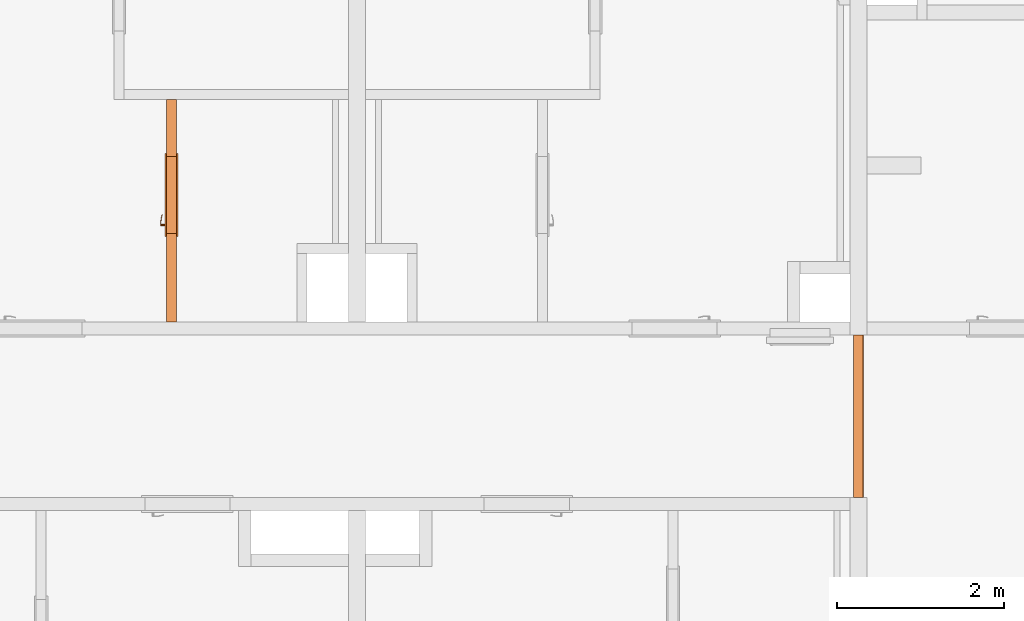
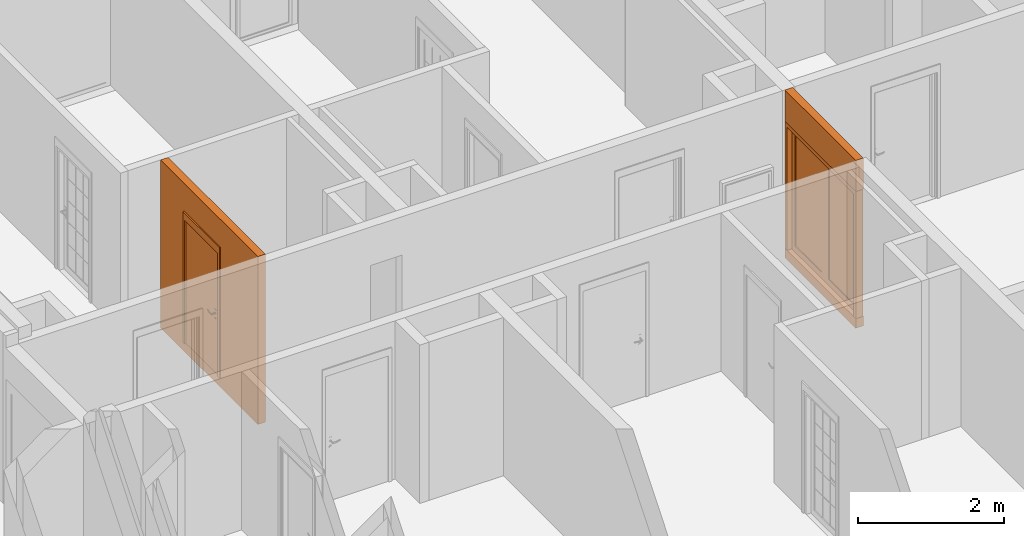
# One storey, part 16 of 66: 4 proxies, 2 openings.
"""IFC2X3 building model written with IfcOpenShell, lengths in millimetres."""

import ifcopenshell
import ifcopenshell.guid

model = None  # the IFC model being written
_history = None  # IfcOwnerHistory: only IFC2X3 demands one
_inside = {}  # id of a spatial element -> (the spatial element, [elements in it])
_under = {}  # id of a project, library or spatial element -> (it, [spatial elements below it])
_declared = {}  # id of a project -> (the project, [libraries it declares])
_typed = {}  # id of a type object -> (the type object, [elements of that type])
_made_of = {}  # id of a material, layer set ... -> (it, [elements and type objects made of it])


def new_model(schema):
    """Start an empty IFC model of exactly this schema.

    Asked for "IFC4X3", IfcOpenShell would pick the latest addendum, in which some entities
    have other attributes; the version numbers below select the first issue.
    IFC2X3 requires an IfcOwnerHistory on every rooted entity: one is made here for all.
    """
    global model, _history
    if schema == "IFC4X3":
        model = ifcopenshell.file(schema_version=(4, 3, 0, 0))
    else:
        model = ifcopenshell.file(schema=schema)
    _inside.clear()
    _under.clear()
    _declared.clear()
    _typed.clear()
    _made_of.clear()
    _history = None
    if model.schema == "IFC2X3":
        org = make("IfcOrganization", Name="unknown")
        user = make(
            "IfcPersonAndOrganization",
            ThePerson=make("IfcPerson", FamilyName="unknown"),
            TheOrganization=org,
        )
        app = make(
            "IfcApplication",
            ApplicationDeveloper=org,
            Version="unknown",
            ApplicationFullName="unknown",
            ApplicationIdentifier="unknown",
        )
        _history = make(
            "IfcOwnerHistory",
            OwningUser=user,
            OwningApplication=app,
            ChangeAction="ADDED",
            CreationDate=0,
        )
    return model


def make(cls, **values):
    """One entity of the class cls with the attributes given. An attribute that is None is left unset."""
    return model.create_entity(
        cls, **{name: value for name, value in values.items() if value is not None}
    )


def entity(cls, *values):
    """Any entity or typed value of the class cls, its attributes in the order of the schema. None: left unset."""
    e = model.create_entity(cls)
    for i, value in enumerate(values):
        if value is not None:
            e[i] = value
    return e


def rooted(cls, **values):
    """An entity with a GlobalId (a new one), such as an element, a storey or a relation."""
    return make(cls, GlobalId=ifcopenshell.guid.new(), OwnerHistory=_history, **values)


def si_unit(unit_type, name, prefix=None):
    """IfcSIUnit, for example si_unit("LENGTHUNIT", "METRE", prefix="MILLI")."""
    return make("IfcSIUnit", UnitType=unit_type, Prefix=prefix, Name=name)


def converted_unit(unit_type, name, factor, base, dimensions=None, offset=None):
    """IfcConversionBasedUnit, such as the inch: factor (a typed value) times the base unit."""
    return make(
        "IfcConversionBasedUnit"
        if offset is None
        else "IfcConversionBasedUnitWithOffset",
        ConversionOffset=offset,
        Dimensions=None
        if dimensions is None
        else entity("IfcDimensionalExponents", *dimensions),
        UnitType=unit_type,
        Name=name,
        ConversionFactor=make(
            "IfcMeasureWithUnit", ValueComponent=factor, UnitComponent=base
        ),
    )


def derived_unit(unit_type, elements):
    """IfcDerivedUnit: a product of units, each with its exponent."""
    return make(
        "IfcDerivedUnit",
        Elements=[
            make("IfcDerivedUnitElement", Unit=unit, Exponent=power)
            for unit, power in elements
        ],
        UnitType=unit_type,
    )


def money_unit(currency):
    """IfcMonetaryUnit."""
    return make("IfcMonetaryUnit", Currency=currency)


def assignment(units):
    """IfcUnitAssignment: the units of a project."""
    return None if units is None else make("IfcUnitAssignment", Units=units)


def point(xyz):
    """IfcCartesianPoint."""
    return None if xyz is None else make("IfcCartesianPoint", Coordinates=xyz)


def direction(xyz):
    """IfcDirection."""
    return None if xyz is None else make("IfcDirection", DirectionRatios=xyz)


def frame(location, z_axis=None, x_axis=None):
    """IfcAxis2Placement3D, a coordinate frame: its origin and axes. An axis left out is left unset."""
    return make(
        "IfcAxis2Placement3D",
        Location=point(location),
        Axis=direction(z_axis),
        RefDirection=direction(x_axis),
    )


def frame_2d(location, x_axis=None):
    """IfcAxis2Placement2D, a coordinate frame in the plane: its origin and x axis."""
    return make(
        "IfcAxis2Placement2D", Location=point(location), RefDirection=direction(x_axis)
    )


def origin_with_axes():
    """The frame at (0, 0, 0) with the z axis (0, 0, 1) and the x axis (1, 0, 0) written out."""
    return frame((0.0, 0.0, 0.0), z_axis=(0.0, 0.0, 1.0), x_axis=(1.0, 0.0, 0.0))


def origin_2d_with_axis():
    """The frame at (0, 0) in the plane with the x axis (1, 0) written out."""
    return frame_2d((0.0, 0.0), x_axis=(1.0, 0.0))


def place(relative_to, where):
    """IfcLocalPlacement: puts the frame where relative to a parent placement (None: the world)."""
    return make(
        "IfcLocalPlacement", PlacementRelTo=relative_to, RelativePlacement=where
    )


def context(
    kind, dimensions, precision=None, world=None, true_north=None, identifier=None
):
    """IfcGeometricRepresentationContext, for example the 3D "Model" context."""
    return make(
        "IfcGeometricRepresentationContext",
        ContextIdentifier=identifier,
        ContextType=kind,
        CoordinateSpaceDimension=dimensions,
        Precision=precision,
        WorldCoordinateSystem=world,
        TrueNorth=true_north,
    )


def subcontext(parent, identifier, kind, view, scale=None):
    """IfcGeometricRepresentationSubContext, for example "Body" below "Model"."""
    return make(
        "IfcGeometricRepresentationSubContext",
        ContextIdentifier=identifier,
        ContextType=kind,
        ParentContext=parent,
        TargetScale=scale,
        TargetView=view,
    )


def project(units=None, contexts=None):
    """IfcProject with its units and contexts."""
    return rooted(
        "IfcProject",
        Name="project",
        RepresentationContexts=contexts,
        UnitsInContext=assignment(units),
    )


def spatial(cls, under=None, at=None, **own):
    """A site, building, storey or space (cls), placed at a placement, below another one or the project."""
    s = rooted(cls, ObjectPlacement=at, **own)
    if under is not None:
        _under.setdefault(under.id(), (under, []))[1].append(s)
    return s


def profile(cls, at=None, kind="AREA", **sizes):
    """A parametric profile (cls). Its sizes go by their IFC names, for example OverallWidth=200.0."""
    return make(cls, ProfileType=kind, Position=at, **sizes)


def rectangle(**sizes):
    """IfcRectangleProfileDef."""
    return profile("IfcRectangleProfileDef", **sizes)


def extrude(swept, where, along, depth):
    """IfcExtrudedAreaSolid: the profile swept, set in the frame where, extruded along a direction by depth."""
    return make(
        "IfcExtrudedAreaSolid",
        SweptArea=swept,
        Position=where,
        ExtrudedDirection=direction(along),
        Depth=depth,
    )


def faces_of(points, faces, orient=None, outer=None):
    """IfcFace entities. A face is a list of loops; a loop is a list of indices into points, from 0.

    orient and outer hold one flag for each loop. By default every Orientation is true, the
    first loop of a face is its IfcFaceOuterBound and the others are IfcFaceBound.
    """
    made = []
    for i, loops in enumerate(faces):
        bounds = []
        for j, loop in enumerate(loops):
            is_outer = j == 0 if outer is None else outer[i][j]
            bounds.append(
                make(
                    "IfcFaceOuterBound" if is_outer else "IfcFaceBound",
                    Bound=make("IfcPolyLoop", Polygon=[points[k] for k in loop]),
                    Orientation=True if orient is None else orient[i][j],
                )
            )
        made.append(make("IfcFace", Bounds=bounds))
    return made


def open_shell(faces, orient=None, outer=None):
    """The faces of one IfcOpenShell. surface_model builds it on its shared points."""
    return ("IfcOpenShell", faces, orient, outer)


def faceted_brep(points, faces, orient=None, outer=None, voids=None):
    """IfcFacetedBrep: a solid bounded by flat faces; with voids (closed shells), ...WithVoids."""
    shared = [point(p) for p in points]
    hull = make("IfcClosedShell", CfsFaces=faces_of(shared, faces, orient, outer))
    if voids is None:
        return make("IfcFacetedBrep", Outer=hull)
    return make(
        "IfcFacetedBrepWithVoids",
        Outer=hull,
        Voids=[
            make(cls, CfsFaces=faces_of(shared, fs, o, b)) for cls, fs, o, b in voids
        ],
    )


def surface_model(cls, points, shells):
    """IfcFaceBasedSurfaceModel or IfcShellBasedSurfaceModel (cls): surfaces that need not close."""
    shared = [point(p) for p in points]
    made = [make(c, CfsFaces=faces_of(shared, fs, o, b)) for c, fs, o, b in shells]
    if cls == "IfcFaceBasedSurfaceModel":
        return make(cls, FbsmFaces=made)
    return make(cls, SbsmBoundary=made)


def shape(context_of_items, identifier, shape_type, items):
    """IfcShapeRepresentation: the items that make up one representation, for example the "Body"."""
    return make(
        "IfcShapeRepresentation",
        ContextOfItems=context_of_items,
        RepresentationIdentifier=identifier,
        RepresentationType=shape_type,
        Items=items,
    )


def source(mapping_origin, context_of_items, identifier, shape_type, items):
    """IfcRepresentationMap: a shape defined once, which mapped items show again and again."""
    return make(
        "IfcRepresentationMap",
        MappingOrigin=mapping_origin,
        MappedRepresentation=shape(context_of_items, identifier, shape_type, items),
    )


def transform(
    local_origin,
    x_axis=None,
    y_axis=None,
    z_axis=None,
    scale=None,
    scale2=None,
    scale3=None,
    uniform=True,
):
    """IfcCartesianTransformationOperator3D, or its non-uniform kind. x_axis, y_axis, z_axis: its Axis1, 2, 3."""
    if uniform:
        return make(
            "IfcCartesianTransformationOperator3D",
            Axis1=direction(x_axis),
            Axis2=direction(y_axis),
            LocalOrigin=point(local_origin),
            Scale=scale,
            Axis3=direction(z_axis),
        )
    return make(
        "IfcCartesianTransformationOperator3DnonUniform",
        Axis1=direction(x_axis),
        Axis2=direction(y_axis),
        LocalOrigin=point(local_origin),
        Scale=scale,
        Axis3=direction(z_axis),
        Scale2=scale2,
        Scale3=scale3,
    )


def mapped(mapping_source, mapping_target):
    """IfcMappedItem: shows the shape of a source again, moved by a transform."""
    return make(
        "IfcMappedItem", MappingSource=mapping_source, MappingTarget=mapping_target
    )


def material(Name=None, Category=None):
    """IfcMaterial."""
    return make("IfcMaterial", Name=Name, Category=Category)


def made_of(thing, what):
    """Note that an element or type object is made of a material, layer set ...; save() writes the relation."""
    if what is not None:
        _made_of.setdefault(what.id(), (what, []))[1].append(thing)
    return thing


def type_object(cls, material=None, **own):
    """A type object (cls), such as IfcWallType, which elements share."""
    return made_of(rooted(cls, **own), material)


def element(
    cls,
    number,
    at=None,
    inside=None,
    cuts=None,
    type_object=None,
    material=None,
    context=None,
    identifier="Body",
    shape_type=None,
    held_by="IfcProductDefinitionShape",
    body=None,
    shapes=None,
    **own,
):
    """One element of the class cls, such as IfcWall. Its Tag is "e" and its number.

    at: its placement. inside: the storey or other place that contains it. cuts: it is an
    opening in that element (IfcRelVoidsElement). A single representation is given by context,
    identifier, shape_type and body (its items); several are given by shapes. held_by: the class
    of the entity that holds the representations. save() writes the other relations.
    """
    e = rooted(cls, Tag="e%d" % number, ObjectPlacement=at, **own)
    if body is not None:
        shapes = [shape(context, identifier, shape_type, body)]
    if shapes is not None:
        e.Representation = make(held_by, Representations=shapes)
    if inside is not None:
        _inside.setdefault(inside.id(), (inside, []))[1].append(e)
    if cuts is not None:
        rooted(
            "IfcRelVoidsElement", RelatingBuildingElement=cuts, RelatedOpeningElement=e
        )
    if type_object is not None:
        _typed.setdefault(type_object.id(), (type_object, []))[1].append(e)
    return made_of(e, material)


def fill(opening, filler):
    """IfcRelFillsElement: the door or window that sits in an opening."""
    return rooted(
        "IfcRelFillsElement",
        RelatingOpeningElement=opening,
        RelatedBuildingElement=filler,
    )


def aggregate(whole, parts):
    """IfcRelAggregates: a whole, such as a stair, and the parts it consists of."""
    return rooted("IfcRelAggregates", RelatingObject=whole, RelatedObjects=parts)


def save(model, path):
    """Write the relations noted so far, then the file.

    IfcRelAggregates (storeys below a building ...), IfcRelContainedInSpatialStructure (elements
    in a storey), IfcRelDefinesByType, IfcRelAssociatesMaterial and IfcRelDeclares: one each for
    every whole, place, type object, material and project.
    """
    for whole, parts in _under.values():
        aggregate(whole, parts)
    for where, things in _inside.values():
        rooted(
            "IfcRelContainedInSpatialStructure",
            RelatedElements=things,
            RelatingStructure=where,
        )
    for kind, things in _typed.values():
        rooted("IfcRelDefinesByType", RelatedObjects=things, RelatingType=kind)
    for what, things in _made_of.values():
        rooted("IfcRelAssociatesMaterial", RelatedObjects=things, RelatingMaterial=what)
    for by, libraries in _declared.values():
        rooted("IfcRelDeclares", RelatingContext=by, RelatedDefinitions=libraries)
    model.write(path)


model = new_model("IFC2X3")

# Units and contexts
model_context = context("Model", 3, precision=0.01, world=origin_with_axes(), true_north=direction((0.34421633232, 0.938890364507)))
body_context = subcontext(model_context, "Body", "Model", "MODEL_VIEW")
ifc_project = project(units=[si_unit("LENGTHUNIT", "METRE", prefix="MILLI"), si_unit("AREAUNIT", "SQUARE_METRE"), si_unit("VOLUMEUNIT", "CUBIC_METRE"), converted_unit("PLANEANGLEUNIT", "DEGREE", entity("IfcPlaneAngleMeasure", 0.0174532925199), si_unit("PLANEANGLEUNIT", "RADIAN"), dimensions=[0, 0, 0, 0, 0, 0, 0]), si_unit("SOLIDANGLEUNIT", "STERADIAN"), money_unit("USD"), converted_unit("TIMEUNIT", "Year", entity("IfcTimeMeasure", 31556926.0), si_unit("TIMEUNIT", "SECOND"), dimensions=[0, 0, 1, 0, 0, 0, 0]), si_unit("MASSUNIT", "GRAM", prefix="KILO"), si_unit("THERMODYNAMICTEMPERATUREUNIT", "DEGREE_CELSIUS"), si_unit("LUMINOUSINTENSITYUNIT", "LUMEN"), si_unit("ENERGYUNIT", "JOULE", prefix="MEGA"), derived_unit("THERMALCONDUCTANCEUNIT", [(si_unit("POWERUNIT", "WATT"), 1), (si_unit("LENGTHUNIT", "METRE"), -1), (si_unit("THERMODYNAMICTEMPERATUREUNIT", "KELVIN"), -1)]), derived_unit("SPECIFICHEATCAPACITYUNIT", [(si_unit("ENERGYUNIT", "JOULE"), 1), (si_unit("MASSUNIT", "GRAM", prefix="KILO"), -1), (si_unit("THERMODYNAMICTEMPERATUREUNIT", "KELVIN"), -1)]), derived_unit("MASSDENSITYUNIT", [(si_unit("MASSUNIT", "GRAM", prefix="KILO"), 1), (si_unit("VOLUMEUNIT", "CUBIC_METRE"), -1)])], contexts=[model_context])

# Site, building, storey
site_placement = place(None, origin_with_axes())
site = spatial("IfcSite", under=ifc_project, at=site_placement, Name="USTRONIE MORSKIE", CompositionType="ELEMENT")
building_placement = place(site_placement, origin_with_axes())
building = spatial("IfcBuilding", under=site, at=building_placement, Name="Budynek", CompositionType="ELEMENT")
storey_placement = place(building_placement, frame((0.0, 0.0, 10000.0), z_axis=(0.0, 0.0, 1.0), x_axis=(1.0, 0.0, 0.0)))
storey = spatial("IfcBuildingStorey", under=building, at=storey_placement, Name="PIĘTRO 3", CompositionType="ELEMENT", Elevation=10000.0)

# Proxies, opening
ifc_material = material(Name="Bloczki silikatowe")
building_element_proxy_type_1 = type_object("IfcBuildingElementProxyType", Name="Bloczki silikatowe 120", PredefinedType="NOTDEFINED")
proxy_1_placement = place(storey_placement, frame((379317.920919, 734751.199036, -160.0), z_axis=(0.0, 0.0, 1.0), x_axis=(0.0, 1.0, 0.0)))
proxy_1 = element("IfcBuildingElementProxy", 1, at=proxy_1_placement, inside=storey, type_object=building_element_proxy_type_1, material=ifc_material, Name="SW-04", context=body_context, shape_type="Brep", body=[
    faceted_brep([(80.0038033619, -60.0, 0.0), (2020.0, -60.0, 0.0), (2020.0, -60.0, 2800.0), (80.0038033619, -60.0, 2800.0), (80.0037661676, 60.0, 0.0), (2020.0, 60.0, 0.0), (2020.0, 60.0, 2800.0), (80.0037661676, 60.0, 2800.0)], [[[0, 1, 2, 3]], [[4, 5, 1, 0]], [[5, 6, 2, 1]], [[3, 2, 6, 7]], [[4, 0, 3, 7]], [[7, 6, 5, 4]]]),
])
opening_1_placement = place(proxy_1_placement, frame((1050.00190168, 0.0, 160.0), z_axis=(0.0, 0.0, 1.0), x_axis=(1.0, 0.0, 0.0)))
opening_1 = element("IfcOpeningElement", 2, at=opening_1_placement, cuts=proxy_1, Name="Dw.6s", context=body_context, shape_type="SweptSolid", body=[
    extrude(rectangle(XDim=1940.0, YDim=2120.0, at=origin_2d_with_axis()), frame((0.0, -120.0, 1060.0), z_axis=(0.0, -1.0, 0.0), x_axis=(1.0, 0.0, 0.0)), (0.0, 0.0, -1.0), 360.0),
])
building_element_proxy_type_2 = type_object("IfcBuildingElementProxyType", Name="Drzwi podwójne 23", PredefinedType="NOTDEFINED")
shared_shape_1 = source(origin_with_axes(), body_context, "Body", "SurfaceModel", [
    faceted_brep([(910.0, -40.0, 0.0), (910.0, -115.0, 0.0), (910.0, -115.0, 2050.0), (910.0, -40.0, 2050.0), (922.0, -40.0, 0.0), (922.0, 0.0, 0.0), (970.0, 0.0, 0.0), (970.0, -115.0, 0.0), (970.0, -115.0, 2050.0), (922.0, -40.0, 2050.0), (970.0, 0.0, 2050.0), (922.0, 0.0, 2050.0)], [[[0, 1, 2, 3]], [[4, 5, 6, 7, 1, 0]], [[1, 7, 8, 2]], [[9, 3, 2, 8, 10, 11]], [[9, 4, 0, 3]], [[11, 5, 4, 9]], [[11, 10, 6, 5]], [[6, 10, 8, 7]]]),
    faceted_brep([(-922.0, -40.0, 2050.0), (-922.0, 0.0, 2050.0), (-970.0, 0.0, 2050.0), (-970.0, -115.0, 2050.0), (-910.0, -115.0, 2050.0), (-910.0, -40.0, 2050.0), (-922.0, -40.0, 0.0), (-922.0, 0.0, 0.0), (-970.0, 0.0, 0.0), (-970.0, -115.0, 0.0), (-910.0, -115.0, 0.0), (-910.0, -40.0, 0.0)], [[[0, 1, 2, 3, 4, 5]], [[0, 6, 7, 1]], [[7, 8, 2, 1]], [[2, 8, 9, 3]], [[3, 9, 10, 4]], [[5, 4, 10, 11]], [[5, 11, 6, 0]], [[6, 11, 10, 9, 8, 7]]]),
    faceted_brep([(922.0, 0.0, 2062.0), (-922.0, 0.0, 2062.0), (-922.0, 0.0, 2050.0), (-970.0, 0.0, 2050.0), (-970.0, 0.0, 2120.0), (970.0, 0.0, 2120.0), (970.0, 0.0, 2050.0), (922.0, 0.0, 2050.0), (922.0, -40.0, 2062.0), (-922.0, -40.0, 2062.0), (-922.0, -40.0, 2050.0), (-910.0, -40.0, 2050.0), (-910.0, -115.0, 2050.0), (-970.0, -115.0, 2050.0), (-970.0, -115.0, 2120.0), (970.0, -115.0, 2120.0), (970.0, -115.0, 2050.0), (922.0, -40.0, 2050.0), (910.0, -115.0, 2050.0), (910.0, -40.0, 2050.0)], [[[0, 1, 2, 3, 4, 5, 6, 7]], [[0, 8, 9, 1]], [[1, 9, 10, 2]], [[10, 11, 12, 13, 3, 2]], [[4, 3, 13, 14]], [[5, 4, 14, 15]], [[6, 5, 15, 16]], [[17, 7, 6, 16, 18, 19]], [[7, 17, 8, 0]], [[10, 9, 8, 17, 19, 11]], [[19, 18, 12, 11]], [[12, 18, 16, 15, 14, 13]]]),
    faceted_brep([(-922.0, 0.0, 100.0), (-822.0, 0.0, 100.0), (-822.0, -40.0, 100.0), (-922.0, -40.0, 100.0), (-922.0, 0.0, 1962.0), (-822.0, 0.0, 1962.0), (-822.0, -40.0, 1962.0), (-922.0, -40.0, 1962.0)], [[[0, 1, 2, 3]], [[0, 4, 5, 1]], [[1, 5, 6, 2]], [[3, 2, 6, 7]], [[4, 0, 3, 7]], [[5, 4, 7, 6]]]),
    faceted_brep([(0.0, 0.0, 100.0), (0.0, 0.0, 1962.0), (0.0, -40.0, 1962.0), (0.0, -40.0, 100.0), (-100.0, 0.0, 100.0), (-100.0, 0.0, 1962.0), (-100.0, -40.0, 1962.0), (-100.0, -40.0, 100.0)], [[[0, 1, 2, 3]], [[0, 4, 5, 1]], [[1, 5, 6, 2]], [[3, 2, 6, 7]], [[4, 0, 3, 7]], [[5, 4, 7, 6]]]),
    faceted_brep([(-922.0, 0.0, 0.0), (0.0, 0.0, 0.0), (0.0, -40.0, 0.0), (-922.0, -40.0, 0.0), (-922.0, 0.0, 100.0), (-822.0, 0.0, 100.0), (-100.0, 0.0, 100.0), (0.0, 0.0, 100.0), (0.0, -40.0, 100.0), (-100.0, -40.0, 100.0), (-822.0, -40.0, 100.0), (-922.0, -40.0, 100.0)], [[[0, 1, 2, 3]], [[0, 4, 5, 6, 7, 1]], [[1, 7, 8, 2]], [[3, 2, 8, 9, 10, 11]], [[4, 0, 3, 11]], [[5, 4, 11, 10]], [[6, 5, 10, 9]], [[7, 6, 9, 8]]]),
    faceted_brep([(-922.0, 0.0, 2062.0), (-922.0, 0.0, 1962.0), (-922.0, -40.0, 1962.0), (-922.0, -40.0, 2062.0), (0.0, 0.0, 2062.0), (0.0, 0.0, 1962.0), (-100.0, 0.0, 1962.0), (-822.0, 0.0, 1962.0), (-822.0, -40.0, 1962.0), (-100.0, -40.0, 1962.0), (0.0, -40.0, 1962.0), (0.0, -40.0, 2062.0)], [[[0, 1, 2, 3]], [[0, 4, 5, 6, 7, 1]], [[1, 7, 8, 2]], [[3, 2, 8, 9, 10, 11]], [[4, 0, 3, 11]], [[5, 4, 11, 10]], [[6, 5, 10, 9]], [[7, 6, 9, 8]]]),
    surface_model("IfcShellBasedSurfaceModel", [(-822.0, -14.0, 100.0), (-822.0, -14.0, 1962.0), (-100.0, -14.0, 1962.0), (-100.0, -14.0, 100.0)], [open_shell([[[0, 1, 2, 3]]])]),
    surface_model("IfcShellBasedSurfaceModel", [(-822.0, -26.0, 100.0), (-100.0, -26.0, 100.0), (-100.0, -26.0, 1962.0), (-822.0, -26.0, 1962.0)], [open_shell([[[0, 1, 2, 3]]])]),
    faceted_brep([(922.0, 0.0, 100.0), (922.0, -40.0, 100.0), (822.0, -40.0, 100.0), (822.0, 0.0, 100.0), (922.0, 0.0, 1962.0), (922.0, -40.0, 1962.0), (822.0, -40.0, 1962.0), (822.0, 0.0, 1962.0)], [[[0, 1, 2, 3]], [[4, 5, 1, 0]], [[1, 5, 6, 2]], [[3, 2, 6, 7]], [[0, 3, 7, 4]], [[7, 6, 5, 4]]]),
    faceted_brep([(0.0, 0.0, 100.0), (0.0, -40.0, 100.0), (0.0, -40.0, 1962.0), (0.0, 0.0, 1962.0), (100.0, 0.0, 100.0), (100.0, -40.0, 100.0), (100.0, -40.0, 1962.0), (100.0, 0.0, 1962.0)], [[[0, 1, 2, 3]], [[4, 5, 1, 0]], [[1, 5, 6, 2]], [[3, 2, 6, 7]], [[0, 3, 7, 4]], [[7, 6, 5, 4]]]),
    faceted_brep([(922.0, 0.0, 0.0), (922.0, -40.0, 0.0), (0.0, -40.0, 0.0), (0.0, 0.0, 0.0), (922.0, 0.0, 100.0), (922.0, -40.0, 100.0), (822.0, -40.0, 100.0), (100.0, -40.0, 100.0), (0.0, -40.0, 100.0), (0.0, 0.0, 100.0), (100.0, 0.0, 100.0), (822.0, 0.0, 100.0)], [[[0, 1, 2, 3]], [[4, 5, 1, 0]], [[1, 5, 6, 7, 8, 2]], [[3, 2, 8, 9]], [[0, 3, 9, 10, 11, 4]], [[11, 6, 5, 4]], [[10, 7, 6, 11]], [[9, 8, 7, 10]]]),
    faceted_brep([(922.0, 0.0, 2062.0), (922.0, -40.0, 2062.0), (922.0, -40.0, 1962.0), (922.0, 0.0, 1962.0), (0.0, 0.0, 2062.0), (0.0, -40.0, 2062.0), (0.0, -40.0, 1962.0), (100.0, -40.0, 1962.0), (822.0, -40.0, 1962.0), (822.0, 0.0, 1962.0), (100.0, 0.0, 1962.0), (0.0, 0.0, 1962.0)], [[[0, 1, 2, 3]], [[4, 5, 1, 0]], [[1, 5, 6, 7, 8, 2]], [[3, 2, 8, 9]], [[0, 3, 9, 10, 11, 4]], [[11, 6, 5, 4]], [[10, 7, 6, 11]], [[9, 8, 7, 10]]]),
    surface_model("IfcShellBasedSurfaceModel", [(822.0, -14.0, 100.0), (100.0, -14.0, 100.0), (100.0, -14.0, 1962.0), (822.0, -14.0, 1962.0)], [open_shell([[[0, 1, 2, 3]]])]),
    surface_model("IfcShellBasedSurfaceModel", [(822.0, -26.0, 100.0), (822.0, -26.0, 1962.0), (100.0, -26.0, 1962.0), (100.0, -26.0, 100.0)], [open_shell([[[0, 1, 2, 3]]])]),
])
proxy_2_placement = place(opening_1_placement, frame((910.0, 0.0, 0.0), z_axis=(0.0, 0.0, 1.0), x_axis=(-1.0, 0.0, 0.0)))
proxy_2 = element("IfcBuildingElementProxy", 3, at=proxy_2_placement, inside=storey, type_object=building_element_proxy_type_2, Name="Dw.6s", context=body_context, shape_type="MappedRepresentation", body=[
    mapped(shared_shape_1, transform((910.0, 55.0, 0.0))),
])
fill(opening_1, proxy_2)

proxy_3_placement = place(storey_placement, frame((371097.920919, 739651.199937, -160.0), z_axis=(0.0, 0.0, 1.0), x_axis=(0.0, -1.0, 0.0)))
proxy_3 = element("IfcBuildingElementProxy", 4, at=proxy_3_placement, inside=storey, type_object=building_element_proxy_type_1, material=ifc_material, Name="SW-04", context=body_context, shape_type="Brep", body=[
    faceted_brep([(2720.00090117, -60.0, 2800.0), (2720.00090117, 60.0, 2800.0), (59.9999999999, 60.0, 2800.0), (59.9999999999, -60.0, 2800.0), (2720.00090117, -60.0, 0.0), (2720.00090117, 60.0, 0.0), (59.9999999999, 60.0, 0.0), (59.9999999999, -60.0, 0.0)], [[[0, 1, 2, 3]], [[1, 0, 4, 5]], [[1, 5, 6, 2]], [[7, 3, 2, 6]], [[4, 0, 3, 7]], [[5, 4, 7, 6]]]),
])
opening_2_placement = place(proxy_3_placement, frame((1200.00090117, 0.0, 160.0), z_axis=(0.0, 0.0, 1.0), x_axis=(1.0, 0.0, 0.0)))
opening_2 = element("IfcOpeningElement", 5, at=opening_2_placement, cuts=proxy_3, Name="Dw.4", context=body_context, shape_type="SweptSolid", body=[
    extrude(rectangle(XDim=920.0, YDim=2070.0, at=origin_2d_with_axis()), frame((0.0, 120.0, 1035.0), z_axis=(0.0, -1.0, 0.0), x_axis=(-1.0, 0.0, 0.0)), (0.0, 0.0, 1.0), 360.0),
    extrude(rectangle(XDim=994.0, YDim=2177.0, at=origin_2d_with_axis()), frame((0.0, 60.0, 1088.5), z_axis=(0.0, -1.0, 0.0), x_axis=(-1.0, 0.0, 0.0)), (0.0, 0.0, -1.0), 120.0),
    extrude(rectangle(XDim=994.0, YDim=2177.0, at=origin_2d_with_axis()), frame((0.0, -60.0, 1088.5), z_axis=(0.0, 1.0, 0.0), x_axis=(-1.0, 0.0, 0.0)), (0.0, 0.0, -1.0), 120.0),
])
building_element_proxy_type_3 = type_object("IfcBuildingElementProxyType", Name="Drzwi 23", PredefinedType="NOTDEFINED")
shared_shape_2 = source(origin_with_axes(), body_context, "Body", "SurfaceModel", [
    faceted_brep([(-460.0, -115.0, 0.0), (-435.0, -115.0, 0.0), (-435.0, -120.0, 0.0), (-460.0, -120.0, 0.0), (-460.0, -115.0, 2070.0), (-435.0, -115.0, 2045.0), (-435.0, -120.0, 2045.0), (-460.0, -120.0, 2070.0)], [[[0, 1, 2, 3]], [[0, 4, 5, 1]], [[1, 5, 6, 2]], [[3, 2, 6, 7]], [[4, 0, 3, 7]], [[5, 4, 7, 6]]]),
    faceted_brep([(460.0, -115.0, 2070.0), (435.0, -115.0, 2045.0), (435.0, -120.0, 2045.0), (460.0, -120.0, 2070.0), (460.0, -115.0, 0.0), (435.0, -115.0, 0.0), (435.0, -120.0, 0.0), (460.0, -120.0, 0.0)], [[[0, 1, 2, 3]], [[0, 4, 5, 1]], [[1, 5, 6, 2]], [[3, 2, 6, 7]], [[4, 0, 3, 7]], [[5, 4, 7, 6]]]),
    faceted_brep([(-435.0, -115.0, 2045.0), (435.0, -115.0, 2045.0), (435.0, -120.0, 2045.0), (-435.0, -120.0, 2045.0), (-460.0, -115.0, 2070.0), (460.0, -115.0, 2070.0), (460.0, -120.0, 2070.0), (-460.0, -120.0, 2070.0)], [[[0, 1, 2, 3]], [[0, 4, 5, 1]], [[1, 5, 6, 2]], [[3, 2, 6, 7]], [[4, 0, 3, 7]], [[5, 4, 7, 6]]]),
    faceted_brep([(-497.0, -139.0, 0.0), (-497.0, -120.0, 0.0), (-447.0, -120.0, 0.0), (-447.0, -139.0, 0.0), (-497.0, -139.0, 2177.0), (-497.0, -120.0, 2177.0), (-447.0, -120.0, 2057.0), (-447.0, -139.0, 2057.0)], [[[0, 1, 2, 3]], [[4, 5, 1, 0]], [[1, 5, 6, 2]], [[3, 2, 6, 7]], [[0, 3, 7, 4]], [[7, 6, 5, 4]]]),
    faceted_brep([(497.0, -139.0, 2177.0), (497.0, -120.0, 2177.0), (447.0, -120.0, 2057.0), (447.0, -139.0, 2057.0), (497.0, -139.0, 0.0), (497.0, -120.0, 0.0), (447.0, -120.0, 0.0), (447.0, -139.0, 0.0)], [[[0, 1, 2, 3]], [[4, 5, 1, 0]], [[1, 5, 6, 2]], [[3, 2, 6, 7]], [[0, 3, 7, 4]], [[7, 6, 5, 4]]]),
    faceted_brep([(-497.0, -139.0, 2177.0), (-497.0, -120.0, 2177.0), (-447.0, -120.0, 2057.0), (-447.0, -139.0, 2057.0), (497.0, -139.0, 2177.0), (497.0, -120.0, 2177.0), (447.0, -120.0, 2057.0), (447.0, -139.0, 2057.0)], [[[0, 1, 2, 3]], [[4, 5, 1, 0]], [[1, 5, 6, 2]], [[3, 2, 6, 7]], [[0, 3, 7, 4]], [[7, 6, 5, 4]]]),
    faceted_brep([(-497.0, 19.0, 0.0), (-447.0, 19.0, 0.0), (-447.0, 0.0, 0.0), (-497.0, 0.0, 0.0), (-497.0, 19.0, 2177.0), (-447.0, 19.0, 2057.0), (-447.0, 0.0, 2057.0), (-497.0, 0.0, 2177.0)], [[[0, 1, 2, 3]], [[0, 4, 5, 1]], [[1, 5, 6, 2]], [[3, 2, 6, 7]], [[4, 0, 3, 7]], [[5, 4, 7, 6]]]),
    faceted_brep([(497.0, 19.0, 2177.0), (447.0, 19.0, 2057.0), (447.0, 0.0, 2057.0), (497.0, 0.0, 2177.0), (497.0, 19.0, 0.0), (447.0, 19.0, 0.0), (447.0, 0.0, 0.0), (497.0, 0.0, 0.0)], [[[0, 1, 2, 3]], [[0, 4, 5, 1]], [[1, 5, 6, 2]], [[3, 2, 6, 7]], [[4, 0, 3, 7]], [[5, 4, 7, 6]]]),
    faceted_brep([(-497.0, 19.0, 2177.0), (-447.0, 19.0, 2057.0), (-447.0, 0.0, 2057.0), (-497.0, 0.0, 2177.0), (497.0, 19.0, 2177.0), (447.0, 19.0, 2057.0), (447.0, 0.0, 2057.0), (497.0, 0.0, 2177.0)], [[[0, 1, 2, 3]], [[0, 4, 5, 1]], [[1, 5, 6, 2]], [[3, 2, 6, 7]], [[4, 0, 3, 7]], [[5, 4, 7, 6]]]),
    faceted_brep([(-400.0, -40.0, 0.0), (-400.0, -40.0, 2000.0), (-400.0, -115.0, 2000.0), (-400.0, -115.0, 0.0), (-412.0, -40.0, 2000.0), (-412.0, -40.0, 0.0), (-412.0, 0.0, 2000.0), (-460.0, 0.0, 2000.0), (-460.0, -115.0, 2000.0), (-460.0, -115.0, 0.0), (-460.0, 0.0, 0.0), (-412.0, 0.0, 0.0)], [[[0, 1, 2, 3]], [[4, 1, 0, 5]], [[4, 6, 7, 8, 2, 1]], [[3, 2, 8, 9]], [[5, 0, 3, 9, 10, 11]], [[6, 4, 5, 11]], [[6, 11, 10, 7]], [[10, 9, 8, 7]]]),
    faceted_brep([(412.0, -40.0, 2000.0), (400.0, -40.0, 2000.0), (400.0, -115.0, 2000.0), (460.0, -115.0, 2000.0), (460.0, 0.0, 2000.0), (412.0, 0.0, 2000.0), (412.0, -40.0, 0.0), (400.0, -40.0, 0.0), (400.0, -115.0, 0.0), (460.0, -115.0, 0.0), (460.0, 0.0, 0.0), (412.0, 0.0, 0.0)], [[[0, 1, 2, 3, 4, 5]], [[1, 0, 6, 7]], [[1, 7, 8, 2]], [[3, 2, 8, 9]], [[4, 3, 9, 10]], [[11, 5, 4, 10]], [[0, 5, 11, 6]], [[6, 11, 10, 9, 8, 7]]]),
    faceted_brep([(-412.0, 0.0, 2012.0), (-412.0, 0.0, 2000.0), (-460.0, 0.0, 2000.0), (-460.0, 0.0, 2070.0), (460.0, 0.0, 2070.0), (460.0, 0.0, 2000.0), (412.0, 0.0, 2000.0), (412.0, 0.0, 2012.0), (-412.0, -40.0, 2012.0), (-412.0, -40.0, 2000.0), (-400.0, -40.0, 2000.0), (-400.0, -115.0, 2000.0), (-460.0, -115.0, 2000.0), (-460.0, -115.0, 2070.0), (460.0, -115.0, 2070.0), (460.0, -115.0, 2000.0), (412.0, -40.0, 2000.0), (400.0, -115.0, 2000.0), (400.0, -40.0, 2000.0), (412.0, -40.0, 2012.0)], [[[0, 1, 2, 3, 4, 5, 6, 7]], [[1, 0, 8, 9]], [[9, 10, 11, 12, 2, 1]], [[2, 12, 13, 3]], [[3, 13, 14, 4]], [[4, 14, 15, 5]], [[16, 6, 5, 15, 17, 18]], [[7, 6, 16, 19]], [[0, 7, 19, 8]], [[16, 18, 10, 9, 8, 19]], [[10, 18, 17, 11]], [[17, 15, 14, 13, 12, 11]]]),
    faceted_brep([(-390.5, -40.0, 1060.0), (-390.5, -43.0, 1060.0), (-333.5, -43.0, 1060.0), (-333.5, -40.0, 1060.0), (-390.5, -40.0, 870.0), (-390.5, -43.0, 870.0), (-333.5, -43.0, 870.0), (-333.5, -40.0, 870.0)], [[[0, 1, 2, 3]], [[4, 5, 1, 0]], [[1, 5, 6, 2]], [[3, 2, 6, 7]], [[0, 3, 7, 4]], [[7, 6, 5, 4]]]),
    faceted_brep([(-362.0, -104.0, 990.0), (-362.0, -111.0, 990.0), (-367.0, -111.0, 991.339745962), (-367.0, -104.0, 991.339745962), (-337.0, -104.0, 990.0), (-337.0, -111.0, 990.0), (-337.0, -111.0, 1010.0), (-362.0, -111.0, 1010.0), (-367.0, -111.0, 1008.66025404), (-370.660254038, -111.0, 1005.0), (-372.0, -111.0, 1000.0), (-370.660254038, -111.0, 995.0), (-370.660254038, -104.0, 995.0), (-372.0, -104.0, 1000.0), (-370.660254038, -104.0, 1005.0), (-367.0, -104.0, 1008.66025404), (-362.0, -104.0, 1010.0), (-337.0, -104.0, 1010.0)], [[[0, 1, 2, 3]], [[4, 5, 1, 0]], [[1, 5, 6, 7, 8, 9, 10, 11, 2]], [[3, 2, 11, 12]], [[0, 3, 12, 13, 14, 15, 16, 17, 4]], [[17, 6, 5, 4]], [[16, 7, 6, 17]], [[15, 8, 7, 16]], [[14, 9, 8, 15]], [[13, 10, 9, 14]], [[12, 11, 10, 13]]]),
    surface_model("IfcShellBasedSurfaceModel", [(-337.0, -104.0, 1010.0), (-323.596090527, -111.0, 1009.60730092), (-323.901717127, -104.0, 1009.60730092), (-337.0, -111.0, 1010.0), (-296.890283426, -108.663544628, 1008.82190275), (-323.901717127, -104.0, 990.392699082), (-337.0, -104.0, 990.0), (-337.0, -111.0, 990.0), (-323.596090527, -111.0, 990.392699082), (-296.890283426, -108.663544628, 991.178097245), (-297.804837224, -101.716818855, 1008.82190275), (-297.804837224, -101.716818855, 991.178097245), (-270.489735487, -104.008415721, 991.963495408), (-270.489735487, -104.008415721, 1008.03650459), (-272.006256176, -97.1678329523, 1008.03650459), (-272.006256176, -97.1678329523, 991.963495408), (-244.59537082, -97.0700416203, 992.748893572), (-244.59537082, -97.0700416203, 1007.25110643), (-246.702316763, -90.3876628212, 1007.25110643), (-246.702316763, -90.3876628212, 992.748893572), (-236.538795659, -94.1376880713, 993.0), (-236.538795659, -94.1376880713, 1007.0), (-238.829442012, -87.5221707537, 1007.0), (-238.829442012, -87.5221707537, 993.0)], [open_shell([[[0, 1, 2]], [[0, 3, 1]], [[2, 1, 4]], [[0, 2, 5, 6]], [[3, 7, 8, 1]], [[1, 8, 9, 4]], [[2, 4, 10]], [[2, 10, 11, 5]], [[5, 7, 6]], [[5, 8, 7]], [[11, 9, 8]], [[4, 9, 12, 13]], [[10, 4, 13]], [[10, 14, 15, 11]], [[11, 8, 5]], [[15, 9, 11]], [[15, 12, 9]], [[13, 12, 16, 17]], [[10, 13, 14]], [[14, 18, 19, 15]], [[19, 12, 15]], [[19, 16, 12]], [[17, 16, 20, 21]], [[14, 13, 17]], [[14, 17, 18]], [[18, 22, 23, 19]], [[23, 16, 19]], [[23, 20, 16]], [[22, 21, 20, 23]], [[18, 17, 21]], [[18, 21, 22]]])]),
    faceted_brep([(-351.607695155, -53.0, 994.0), (-350.741669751, -43.0, 993.5), (-349.0, -43.0, 1000.0), (-350.0, -53.0, 1000.0), (-356.0, -53.0, 989.607695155), (-355.5, -43.0, 988.741669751), (-362.0, -43.0, 987.0), (-368.5, -43.0, 988.741669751), (-373.258330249, -43.0, 993.5), (-375.0, -43.0, 1000.0), (-373.258330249, -43.0, 1006.5), (-368.5, -43.0, 1011.25833025), (-362.0, -43.0, 1013.0), (-355.5, -43.0, 1011.25833025), (-350.741669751, -43.0, 1006.5), (-351.607695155, -53.0, 1006.0), (-356.0, -53.0, 1010.39230485), (-362.0, -53.0, 1012.0), (-368.0, -53.0, 1010.39230485), (-372.392304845, -53.0, 1006.0), (-374.0, -53.0, 1000.0), (-372.392304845, -53.0, 994.0), (-368.0, -53.0, 989.607695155), (-362.0, -53.0, 988.0)], [[[0, 1, 2, 3]], [[4, 5, 1, 0]], [[2, 1, 5, 6, 7, 8, 9, 10, 11, 12, 13, 14]], [[3, 2, 14, 15]], [[3, 15, 16, 17, 18, 19, 20, 21, 22, 23, 4, 0]], [[23, 6, 5, 4]], [[22, 7, 6, 23]], [[21, 8, 7, 22]], [[20, 9, 8, 21]], [[19, 10, 9, 20]], [[18, 11, 10, 19]], [[17, 12, 11, 18]], [[16, 13, 12, 17]], [[15, 14, 13, 16]]]),
    faceted_brep([(-344.679491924, -47.0, 895.0), (-342.947441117, -43.0, 894.0), (-340.0, -43.0, 905.0), (-342.0, -47.0, 905.0), (-352.0, -47.0, 887.679491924), (-351.0, -43.0, 885.947441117), (-362.0, -43.0, 883.0), (-373.0, -43.0, 885.947441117), (-381.052558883, -43.0, 894.0), (-384.0, -43.0, 905.0), (-381.052558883, -43.0, 916.0), (-373.0, -43.0, 924.052558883), (-362.0, -43.0, 927.0), (-351.0, -43.0, 924.052558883), (-342.947441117, -43.0, 916.0), (-344.679491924, -47.0, 915.0), (-352.0, -47.0, 922.320508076), (-362.0, -47.0, 925.0), (-372.0, -47.0, 922.320508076), (-379.320508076, -47.0, 915.0), (-382.0, -47.0, 905.0), (-379.320508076, -47.0, 895.0), (-372.0, -47.0, 887.679491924), (-362.0, -47.0, 885.0)], [[[0, 1, 2, 3]], [[4, 5, 1, 0]], [[2, 1, 5, 6, 7, 8, 9, 10, 11, 12, 13, 14]], [[3, 2, 14, 15]], [[3, 15, 16, 17, 18, 19, 20, 21, 22, 23, 4, 0]], [[23, 6, 5, 4]], [[22, 7, 6, 23]], [[21, 8, 7, 22]], [[20, 9, 8, 21]], [[19, 10, 9, 20]], [[18, 11, 10, 19]], [[17, 12, 11, 18]], [[16, 13, 12, 17]], [[15, 14, 13, 16]]]),
    faceted_brep([(-357.050252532, -49.0, 909.050252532), (-356.343145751, -47.0, 908.343145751), (-354.0, -47.0, 914.0), (-355.0, -49.0, 914.0), (-362.0, -49.0, 907.0), (-362.0, -47.0, 906.0), (-367.656854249, -47.0, 908.343145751), (-370.0, -47.0, 914.0), (-367.656854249, -47.0, 919.656854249), (-362.0, -47.0, 922.0), (-356.343145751, -47.0, 919.656854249), (-357.050252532, -49.0, 918.949747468), (-362.0, -49.0, 921.0), (-366.949747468, -49.0, 918.949747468), (-369.0, -49.0, 914.0), (-366.949747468, -49.0, 909.050252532)], [[[0, 1, 2, 3]], [[4, 5, 1, 0]], [[2, 1, 5, 6, 7, 8, 9, 10]], [[3, 2, 10, 11]], [[3, 11, 12, 13, 14, 15, 4, 0]], [[15, 6, 5, 4]], [[14, 7, 6, 15]], [[13, 8, 7, 14]], [[12, 9, 8, 13]], [[11, 10, 9, 12]]]),
    faceted_brep([(-362.0, -53.0, 1010.0), (-362.0, -104.0, 1010.0), (-357.0, -104.0, 1008.66025404), (-357.0, -53.0, 1008.66025404), (-367.0, -53.0, 1008.66025404), (-367.0, -104.0, 1008.66025404), (-370.660254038, -104.0, 1005.0), (-372.0, -104.0, 1000.0), (-370.660254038, -104.0, 995.0), (-367.0, -104.0, 991.339745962), (-362.0, -104.0, 990.0), (-357.0, -104.0, 991.339745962), (-353.339745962, -104.0, 995.0), (-352.0, -104.0, 1000.0), (-353.339745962, -104.0, 1005.0), (-353.339745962, -53.0, 1005.0), (-352.0, -53.0, 1000.0), (-353.339745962, -53.0, 995.0), (-357.0, -53.0, 991.339745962), (-362.0, -53.0, 990.0), (-367.0, -53.0, 991.339745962), (-370.660254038, -53.0, 995.0), (-372.0, -53.0, 1000.0), (-370.660254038, -53.0, 1005.0)], [[[0, 1, 2, 3]], [[4, 5, 1, 0]], [[1, 5, 6, 7, 8, 9, 10, 11, 12, 13, 14, 2]], [[3, 2, 14, 15]], [[0, 3, 15, 16, 17, 18, 19, 20, 21, 22, 23, 4]], [[23, 6, 5, 4]], [[22, 7, 6, 23]], [[21, 8, 7, 22]], [[20, 9, 8, 21]], [[19, 10, 9, 20]], [[18, 11, 10, 19]], [[17, 12, 11, 18]], [[16, 13, 12, 17]], [[15, 14, 13, 16]]]),
    faceted_brep([(-390.5, 0.0, 1060.0), (-333.5, 0.0, 1060.0), (-333.5, 3.0, 1060.0), (-390.5, 3.0, 1060.0), (-390.5, 0.0, 870.0), (-333.5, 0.0, 870.0), (-333.5, 3.0, 870.0), (-390.5, 3.0, 870.0)], [[[0, 1, 2, 3]], [[0, 4, 5, 1]], [[1, 5, 6, 2]], [[3, 2, 6, 7]], [[4, 0, 3, 7]], [[5, 4, 7, 6]]]),
    faceted_brep([(-362.0, 64.0, 990.0), (-367.0, 64.0, 991.339745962), (-367.0, 71.0, 991.339745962), (-362.0, 71.0, 990.0), (-337.0, 64.0, 990.0), (-337.0, 64.0, 1010.0), (-362.0, 64.0, 1010.0), (-367.0, 64.0, 1008.66025404), (-370.660254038, 64.0, 1005.0), (-372.0, 64.0, 1000.0), (-370.660254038, 64.0, 995.0), (-370.660254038, 71.0, 995.0), (-372.0, 71.0, 1000.0), (-370.660254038, 71.0, 1005.0), (-367.0, 71.0, 1008.66025404), (-362.0, 71.0, 1010.0), (-337.0, 71.0, 1010.0), (-337.0, 71.0, 990.0)], [[[0, 1, 2, 3]], [[0, 4, 5, 6, 7, 8, 9, 10, 1]], [[1, 10, 11, 2]], [[3, 2, 11, 12, 13, 14, 15, 16, 17]], [[4, 0, 3, 17]], [[5, 4, 17, 16]], [[6, 5, 16, 15]], [[7, 6, 15, 14]], [[8, 7, 14, 13]], [[9, 8, 13, 12]], [[10, 9, 12, 11]]]),
    surface_model("IfcShellBasedSurfaceModel", [(-337.0, 64.0, 1010.0), (-323.901717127, 64.0, 1009.60730092), (-323.596090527, 71.0, 1009.60730092), (-337.0, 64.0, 990.0), (-323.901717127, 64.0, 990.392699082), (-296.890283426, 68.6635446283, 1008.82190275), (-337.0, 71.0, 1010.0), (-337.0, 71.0, 990.0), (-297.804837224, 61.716818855, 991.178097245), (-297.804837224, 61.716818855, 1008.82190275), (-296.890283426, 68.6635446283, 991.178097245), (-323.596090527, 71.0, 990.392699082), (-272.006256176, 57.1678329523, 991.963495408), (-272.006256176, 57.1678329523, 1008.03650459), (-270.489735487, 64.0084157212, 1008.03650459), (-270.489735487, 64.0084157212, 991.963495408), (-246.702316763, 50.3876628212, 992.748893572), (-246.702316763, 50.3876628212, 1007.25110643), (-244.59537082, 57.0700416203, 1007.25110643), (-244.59537082, 57.0700416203, 992.748893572), (-238.829442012, 47.5221707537, 993.0), (-238.829442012, 47.5221707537, 1007.0), (-236.538795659, 54.1376880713, 1007.0), (-236.538795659, 54.1376880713, 993.0)], [open_shell([[[0, 1, 2]], [[0, 3, 4, 1]], [[1, 5, 2]], [[0, 2, 6]], [[4, 3, 7]], [[1, 4, 8, 9]], [[1, 9, 5]], [[2, 5, 10, 11]], [[6, 2, 11, 7]], [[4, 7, 11]], [[8, 4, 11]], [[9, 8, 12, 13]], [[9, 14, 5]], [[5, 14, 15, 10]], [[8, 11, 10]], [[12, 8, 10]], [[13, 12, 16, 17]], [[9, 13, 14]], [[14, 18, 19, 15]], [[12, 10, 15]], [[16, 12, 15]], [[17, 16, 20, 21]], [[13, 17, 18]], [[13, 18, 14]], [[18, 22, 23, 19]], [[16, 15, 19]], [[20, 16, 19]], [[21, 20, 23, 22]], [[17, 21, 22]], [[17, 22, 18]], [[20, 19, 23]]])]),
    faceted_brep([(-351.607695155, 13.0, 994.0), (-350.0, 13.0, 1000.0), (-349.0, 3.0, 1000.0), (-350.741669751, 3.0, 993.5), (-356.0, 13.0, 989.607695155), (-362.0, 13.0, 988.0), (-368.0, 13.0, 989.607695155), (-372.392304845, 13.0, 994.0), (-374.0, 13.0, 1000.0), (-372.392304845, 13.0, 1006.0), (-368.0, 13.0, 1010.39230485), (-362.0, 13.0, 1012.0), (-356.0, 13.0, 1010.39230485), (-351.607695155, 13.0, 1006.0), (-350.741669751, 3.0, 1006.5), (-355.5, 3.0, 1011.25833025), (-362.0, 3.0, 1013.0), (-368.5, 3.0, 1011.25833025), (-373.258330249, 3.0, 1006.5), (-375.0, 3.0, 1000.0), (-373.258330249, 3.0, 993.5), (-368.5, 3.0, 988.741669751), (-362.0, 3.0, 987.0), (-355.5, 3.0, 988.741669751)], [[[0, 1, 2, 3]], [[1, 0, 4, 5, 6, 7, 8, 9, 10, 11, 12, 13]], [[1, 13, 14, 2]], [[2, 14, 15, 16, 17, 18, 19, 20, 21, 22, 23, 3]], [[4, 0, 3, 23]], [[5, 4, 23, 22]], [[6, 5, 22, 21]], [[7, 6, 21, 20]], [[8, 7, 20, 19]], [[9, 8, 19, 18]], [[10, 9, 18, 17]], [[11, 10, 17, 16]], [[12, 11, 16, 15]], [[13, 12, 15, 14]]]),
    faceted_brep([(-344.679491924, 7.0, 895.0), (-342.0, 7.0, 905.0), (-340.0, 3.0, 905.0), (-342.947441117, 3.0, 894.0), (-352.0, 7.0, 887.679491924), (-362.0, 7.0, 885.0), (-372.0, 7.0, 887.679491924), (-379.320508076, 7.0, 895.0), (-382.0, 7.0, 905.0), (-379.320508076, 7.0, 915.0), (-372.0, 7.0, 922.320508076), (-362.0, 7.0, 925.0), (-352.0, 7.0, 922.320508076), (-344.679491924, 7.0, 915.0), (-342.947441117, 3.0, 916.0), (-351.0, 3.0, 924.052558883), (-362.0, 3.0, 927.0), (-373.0, 3.0, 924.052558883), (-381.052558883, 3.0, 916.0), (-384.0, 3.0, 905.0), (-381.052558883, 3.0, 894.0), (-373.0, 3.0, 885.947441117), (-362.0, 3.0, 883.0), (-351.0, 3.0, 885.947441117)], [[[0, 1, 2, 3]], [[1, 0, 4, 5, 6, 7, 8, 9, 10, 11, 12, 13]], [[1, 13, 14, 2]], [[2, 14, 15, 16, 17, 18, 19, 20, 21, 22, 23, 3]], [[4, 0, 3, 23]], [[5, 4, 23, 22]], [[6, 5, 22, 21]], [[7, 6, 21, 20]], [[8, 7, 20, 19]], [[9, 8, 19, 18]], [[10, 9, 18, 17]], [[11, 10, 17, 16]], [[12, 11, 16, 15]], [[13, 12, 15, 14]]]),
    faceted_brep([(-357.050252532, 9.0, 909.050252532), (-355.0, 9.0, 914.0), (-354.0, 7.0, 914.0), (-356.343145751, 7.0, 908.343145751), (-362.0, 9.0, 907.0), (-366.949747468, 9.0, 909.050252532), (-369.0, 9.0, 914.0), (-366.949747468, 9.0, 918.949747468), (-362.0, 9.0, 921.0), (-357.050252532, 9.0, 918.949747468), (-356.343145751, 7.0, 919.656854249), (-362.0, 7.0, 922.0), (-367.656854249, 7.0, 919.656854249), (-370.0, 7.0, 914.0), (-367.656854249, 7.0, 908.343145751), (-362.0, 7.0, 906.0)], [[[0, 1, 2, 3]], [[1, 0, 4, 5, 6, 7, 8, 9]], [[1, 9, 10, 2]], [[2, 10, 11, 12, 13, 14, 15, 3]], [[4, 0, 3, 15]], [[5, 4, 15, 14]], [[6, 5, 14, 13]], [[7, 6, 13, 12]], [[8, 7, 12, 11]], [[9, 8, 11, 10]]]),
    faceted_brep([(-362.0, 13.0, 1010.0), (-357.0, 13.0, 1008.66025404), (-357.0, 64.0, 1008.66025404), (-362.0, 64.0, 1010.0), (-367.0, 13.0, 1008.66025404), (-370.660254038, 13.0, 1005.0), (-372.0, 13.0, 1000.0), (-370.660254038, 13.0, 995.0), (-367.0, 13.0, 991.339745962), (-362.0, 13.0, 990.0), (-357.0, 13.0, 991.339745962), (-353.339745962, 13.0, 995.0), (-352.0, 13.0, 1000.0), (-353.339745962, 13.0, 1005.0), (-353.339745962, 64.0, 1005.0), (-352.0, 64.0, 1000.0), (-353.339745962, 64.0, 995.0), (-357.0, 64.0, 991.339745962), (-362.0, 64.0, 990.0), (-367.0, 64.0, 991.339745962), (-370.660254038, 64.0, 995.0), (-372.0, 64.0, 1000.0), (-370.660254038, 64.0, 1005.0), (-367.0, 64.0, 1008.66025404)], [[[0, 1, 2, 3]], [[0, 4, 5, 6, 7, 8, 9, 10, 11, 12, 13, 1]], [[1, 13, 14, 2]], [[3, 2, 14, 15, 16, 17, 18, 19, 20, 21, 22, 23]], [[4, 0, 3, 23]], [[5, 4, 23, 22]], [[6, 5, 22, 21]], [[7, 6, 21, 20]], [[8, 7, 20, 19]], [[9, 8, 19, 18]], [[10, 9, 18, 17]], [[11, 10, 17, 16]], [[12, 11, 16, 15]], [[13, 12, 15, 14]]]),
    faceted_brep([(412.0, 0.0, 0.0), (412.0, -40.0, 0.0), (-412.0, -40.0, 0.0), (-412.0, 0.0, 0.0), (412.0, 0.0, 2012.0), (412.0, -40.0, 2012.0), (-412.0, -40.0, 2012.0), (-412.0, 0.0, 2012.0)], [[[0, 1, 2, 3]], [[4, 5, 1, 0]], [[1, 5, 6, 2]], [[3, 2, 6, 7]], [[0, 3, 7, 4]], [[7, 6, 5, 4]]]),
])
proxy_4_placement = place(opening_2_placement, frame((400.0, 0.0, 0.0), z_axis=(0.0, 0.0, 1.0), x_axis=(-1.0, 0.0, 0.0)))
proxy_4 = element("IfcBuildingElementProxy", 6, at=proxy_4_placement, inside=storey, type_object=building_element_proxy_type_3, Name="Dw.4", context=body_context, shape_type="MappedRepresentation", body=[
    mapped(shared_shape_2, transform((400.0, 60.0, 0.0))),
])
fill(opening_2, proxy_4)

save(model, "model.ifc")
